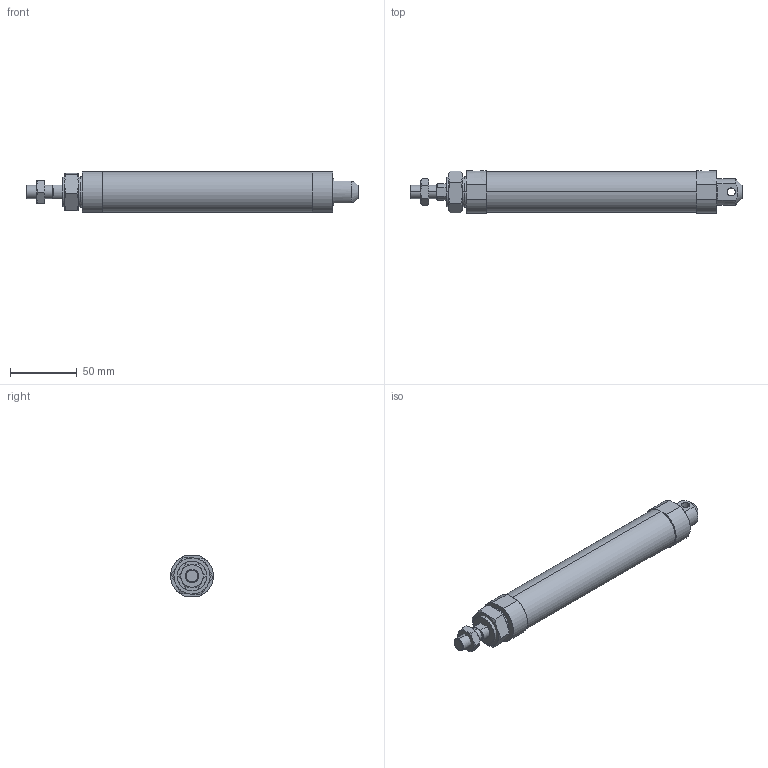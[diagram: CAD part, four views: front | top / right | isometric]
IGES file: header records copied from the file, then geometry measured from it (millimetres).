
Start section: SolidWorks IGES file using analytic representation for surfaces
Global section: file name: C:\Users\Toshiba\Desktop\J#2-25-125-C.IGS; native system: SolidWorks 2014; preprocessor: SolidWorks 2014; author: Toshiba; date: 160308.152442; units: millimetre
Bounding box: 248 x 32 x 30 mm (x, y, z)
Surface area: 26522.1 mm2 (no closed solid volume)
Topology: 0 solids, 0 shells, 96 faces, 1824 edges, 1824 vertices
Faces by surface type: bspline 64, revolution 32
